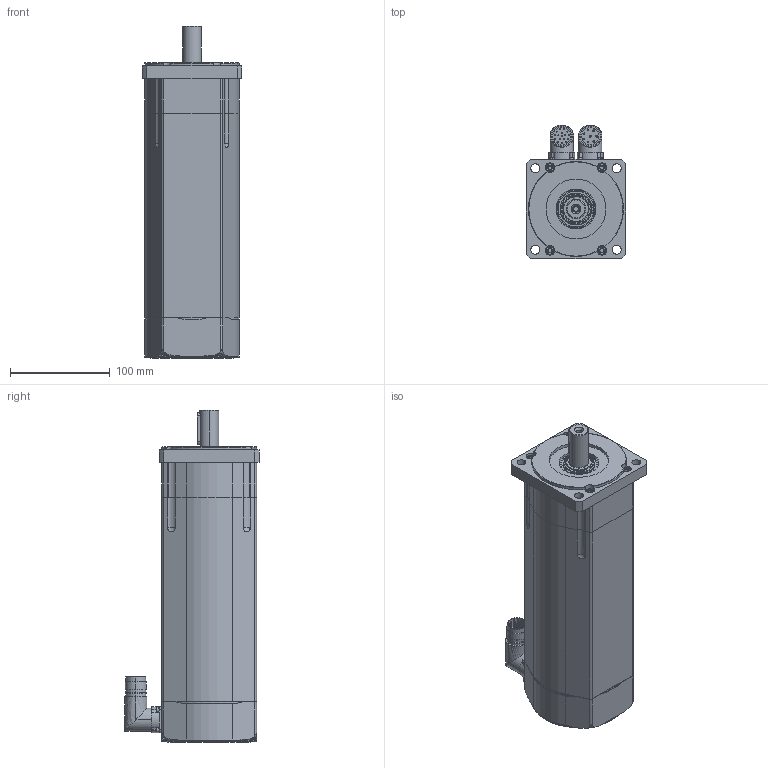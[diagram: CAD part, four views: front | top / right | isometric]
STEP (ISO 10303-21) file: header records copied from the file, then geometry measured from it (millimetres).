
FILE_DESCRIPTION (( 'STEP AP203' ), '1' );
FILE_NAME ('SSAX100L_HJ.STEP', '2015-09-10T14:37:34', ( 'Tecnico motori' ), ( '' ), 'SwSTEP 2.0', 'SolidWorks 2010', '' );
FILE_SCHEMA (( 'CONFIG_CONTROL_DESIGN' ));
Length unit declared in the file: millimetre
Products named in the file (1): SSAX100L_HJ
Bounding box: 100 x 134.5 x 332.5 mm (x, y, z)
Surface area: 144662.6 mm2 (no closed solid volume)
Topology: 0 solids, 37 shells, 492 faces, 1409 edges, 977 vertices
Faces by surface type: cylinder 217, plane 198, cone 41, torus 30, bspline 6
Entity records: 17758 total; most frequent: CARTESIAN_POINT 4510, DIRECTION 2938, ORIENTED_EDGE 2435, EDGE_CURVE 1409, AXIS2_PLACEMENT_3D 1157, VERTEX_POINT 977, CIRCLE 670, LINE 624
